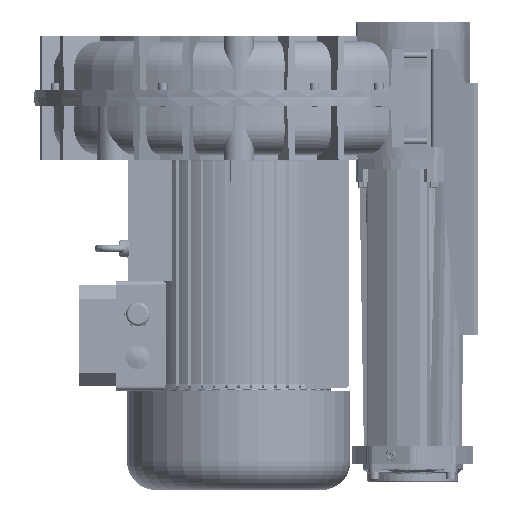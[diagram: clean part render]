
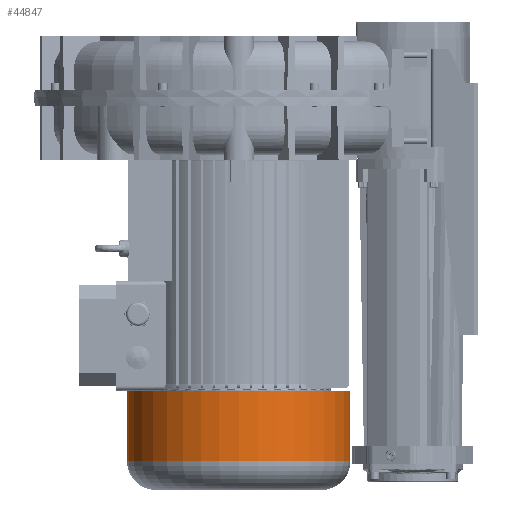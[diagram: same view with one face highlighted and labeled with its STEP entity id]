
A CAD part, left-side view. The second image highlights one B-rep face of the part: STEP entity #44847.
In plain terms, the highlighted cylindrical face has radius 155 mm (diameter 310 mm), a full revolution.
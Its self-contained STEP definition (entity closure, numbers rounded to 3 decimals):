
#3751 = DIRECTION ( 'NONE',  ( 0., 0., 1. ) ) ;
#44847 = ADVANCED_FACE ( 'NONE', ( #104571, #60752 ), #267502, .T. ) ;
#60752 = FACE_OUTER_BOUND ( 'NONE', #184228, .T. ) ;
#70115 = DIRECTION ( 'NONE',  ( 0., -1., 0. ) ) ;
#70445 = ORIENTED_EDGE ( 'NONE', *, *, #267381, .T. ) ;
#70862 = CARTESIAN_POINT ( 'NONE',  ( 0., 0., -165. ) ) ;
#104571 = FACE_OUTER_BOUND ( 'NONE', #187988, .T. ) ;
#125245 = CARTESIAN_POINT ( 'NONE',  ( 0., -155., -262. ) ) ;
#154252 = DIRECTION ( 'NONE',  ( 0., -1., 0. ) ) ;
#161355 = ORIENTED_EDGE ( 'NONE', *, *, #169036, .T. ) ;
#162922 = DIRECTION ( 'NONE',  ( 0., 0., -1. ) ) ;
#163626 = CARTESIAN_POINT ( 'NONE',  ( 0., 0., -262. ) ) ;
#169036 = EDGE_CURVE ( 'NONE', #215399, #215399, #298033, .T. ) ;
#173952 = DIRECTION ( 'NONE',  ( 0., 0., -1. ) ) ;
#184228 = EDGE_LOOP ( 'NONE', ( #161355 ) ) ;
#187988 = EDGE_LOOP ( 'NONE', ( #70445 ) ) ;
#215399 = VERTEX_POINT ( 'NONE', #284829 ) ;
#225634 = AXIS2_PLACEMENT_3D ( 'NONE', #70862, #162922, #238313 ) ;
#238313 = DIRECTION ( 'NONE',  ( 0., -1., 0. ) ) ;
#239946 = VERTEX_POINT ( 'NONE', #125245 ) ;
#244856 = CARTESIAN_POINT ( 'NONE',  ( 0., 0., -302. ) ) ;
#245369 = AXIS2_PLACEMENT_3D ( 'NONE', #244856, #173952, #154252 ) ;
#267381 = EDGE_CURVE ( 'NONE', #239946, #239946, #294780, .T. ) ;
#267502 = CYLINDRICAL_SURFACE ( 'NONE', #245369, 155. ) ;
#284829 = CARTESIAN_POINT ( 'NONE',  ( 0., -155., -165. ) ) ;
#285327 = AXIS2_PLACEMENT_3D ( 'NONE', #163626, #3751, #70115 ) ;
#294780 = CIRCLE ( 'NONE', #285327, 155. ) ;
#298033 = CIRCLE ( 'NONE', #225634, 155. ) ;
